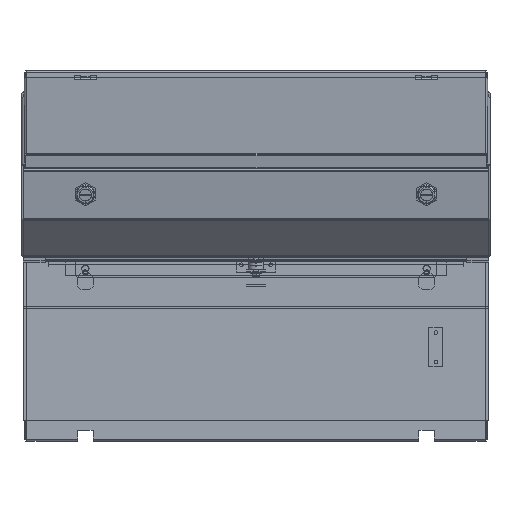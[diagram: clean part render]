
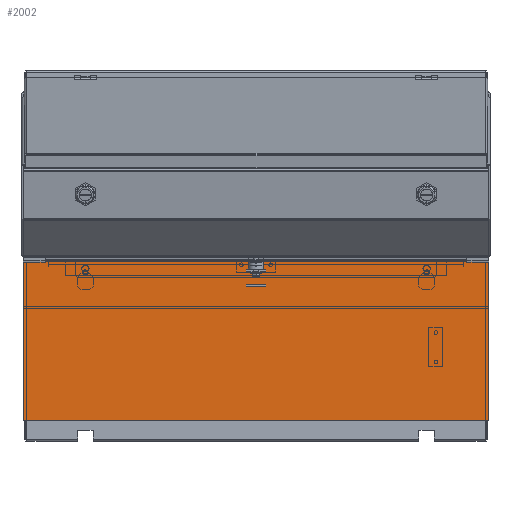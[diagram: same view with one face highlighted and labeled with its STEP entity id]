
A CAD part, front view. The second image highlights one B-rep face of the part: STEP entity #2002.
In plain terms, the highlighted planar face has unit normal (0, -1, 0).
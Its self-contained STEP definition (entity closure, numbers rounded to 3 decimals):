
#2002 = ADVANCED_FACE( '', ( #3116 ), #3117, .F. );
#3116 = FACE_OUTER_BOUND( '', #4739, .T. );
#3117 = PLANE( '', #4740 );
#4739 = EDGE_LOOP( '', ( #9086, #9087, #9088, #9089 ) );
#4740 = AXIS2_PLACEMENT_3D( '', #9090, #9091, #9092 );
#9086 = ORIENTED_EDGE( '', *, *, #12443, .T. );
#9087 = ORIENTED_EDGE( '', *, *, #12527, .F. );
#9088 = ORIENTED_EDGE( '', *, *, #12525, .F. );
#9089 = ORIENTED_EDGE( '', *, *, #12530, .T. );
#9090 = CARTESIAN_POINT( '', ( -302.971, -1.829, 0. ) );
#9091 = DIRECTION( '', ( 0., 1., 0. ) );
#9092 = DIRECTION( '', ( 0., 0., 1. ) );
#12443 = EDGE_CURVE( '', #14568, #14565, #14569, .T. );
#12525 = EDGE_CURVE( '', #14703, #14705, #14706, .T. );
#12527 = EDGE_CURVE( '', #14705, #14565, #14708, .T. );
#12530 = EDGE_CURVE( '', #14703, #14568, #14711, .T. );
#14565 = VERTEX_POINT( '', #17879 );
#14568 = VERTEX_POINT( '', #17882 );
#14569 = LINE( '', #17883, #17884 );
#14703 = VERTEX_POINT( '', #18094 );
#14705 = VERTEX_POINT( '', #18097 );
#14706 = LINE( '', #18098, #18099 );
#14708 = LINE( '', #18101, #18102 );
#14711 = LINE( '', #18107, #18108 );
#17879 = CARTESIAN_POINT( '', ( 302.971, -1.829, -2.743 ) );
#17882 = CARTESIAN_POINT( '', ( 302.971, -1.829, -214.071 ) );
#17883 = CARTESIAN_POINT( '', ( 302.971, -1.829, 0. ) );
#17884 = VECTOR( '', #21453, 1000. );
#18094 = CARTESIAN_POINT( '', ( -302.971, -1.829, -214.071 ) );
#18097 = CARTESIAN_POINT( '', ( -302.971, -1.829, -2.743 ) );
#18098 = CARTESIAN_POINT( '', ( -302.971, -1.829, 0. ) );
#18099 = VECTOR( '', #21563, 1000. );
#18101 = CARTESIAN_POINT( '', ( -302.971, -1.829, -2.743 ) );
#18102 = VECTOR( '', #21567, 1000. );
#18107 = CARTESIAN_POINT( '', ( -302.971, -1.829, -214.071 ) );
#18108 = VECTOR( '', #21570, 1000. );
#21453 = DIRECTION( '', ( 0., 0., 1. ) );
#21563 = DIRECTION( '', ( 0., 0., 1. ) );
#21567 = DIRECTION( '', ( 1., 0., 0. ) );
#21570 = DIRECTION( '', ( 1., 0., 0. ) );
